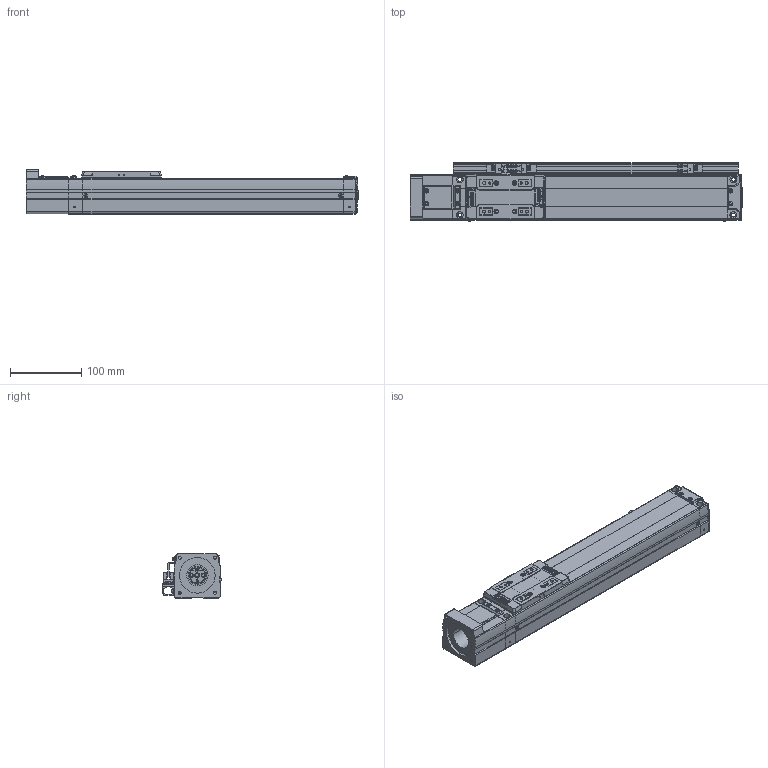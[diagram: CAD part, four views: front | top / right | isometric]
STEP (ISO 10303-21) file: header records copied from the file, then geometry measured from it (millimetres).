
FILE_DESCRIPTION(('STEP AP203'),'1');
FILE_NAME('Z:/Web/3D/SAN65/2012.ver/STP/250/SAN65ㅁㅁ-250S+3SL.stp','2014-06-13T06:03:14',(' '),(' '),'Spatial InterOp 3D',' ',' ');
FILE_SCHEMA(('CONFIG_CONTROL_DESIGN'));
Length unit declared in the file: millimetre
Products named in the file (74): 1; 2; 3; 4; 5; 6; 7; 8; 9; 10; 11; 12; 13; 14; 15; 16; 17; 18; 19; 20; 21; 22; 23; 24; 25; 26; 27; 28; 29; 30; 31; 32; 33; 34; 35; 36; 37; 38; 39; 40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
Bounding box: 466.15 x 82.06 x 62 mm (x, y, z)
Volume: 1523209.8 mm3; surface area: 263674.3 mm2
Topology: 74 solids, 74 shells, 2793 faces, 7329 edges, 4762 vertices
Faces by surface type: plane 1437, cylinder 932, cone 314, sphere 56, bspline 28, torus 20, extrusion 6
Full cylindrical faces by diameter (mm): 2.132 x1, 3.5 x2, 6 x2
Entity records: 93153 total; most frequent: CARTESIAN_POINT 18938, DIRECTION 15350, ORIENTED_EDGE 14518, EDGE_CURVE 7259, AXIS2_PLACEMENT_3D 5494, VERTEX_POINT 4761, VECTOR 4362, LINE 4356
